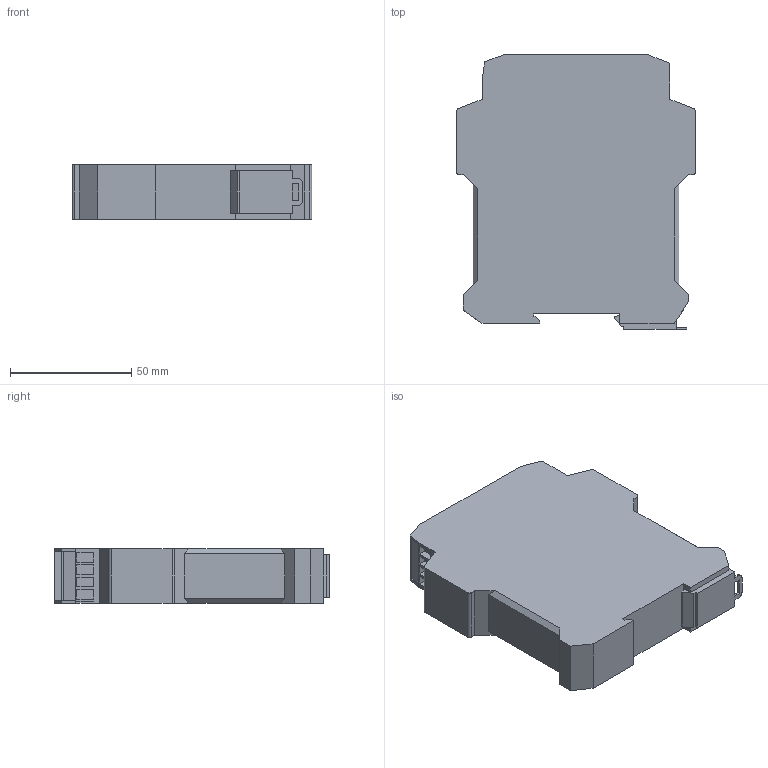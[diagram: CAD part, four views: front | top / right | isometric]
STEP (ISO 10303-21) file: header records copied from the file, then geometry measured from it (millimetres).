
FILE_DESCRIPTION( ( 'STEP AP214' ), '1' );
FILE_NAME( 'N:/Engineering/CAD_Solid/Wirbelstrom/Stromversorgung PS-100.stp', '2011-12-15T11:24:48', ( ' ' ), ( ' ' ), 'XStep 1.0', ' ', ' ' );
FILE_SCHEMA( ( 'CONFIG_CONTROL_DESIGN) ( )' ) );
Length unit declared in the file: metre
Products named in the file (1): 2938837_MINI_PS_100_240AC_24DC_4_select
Bounding box: 99 x 113.5 x 22.5 mm (x, y, z)
Volume: 212921.2 mm3; surface area: 30114.5 mm2
Topology: 1 solids, 1 shells, 144 faces, 392 edges, 258 vertices
Faces by surface type: plane 128, cylinder 16
Full cylindrical faces by diameter (mm): 3.771 x1, 4 x4
Entity records: 5599 total; most frequent: CARTESIAN_POINT 826, ORIENTED_EDGE 774, DIRECTION 684, EDGE_CURVE 387, LINE 326, VECTOR 326, VERTEX_POINT 258, AXIS2_PLACEMENT_3D 179
